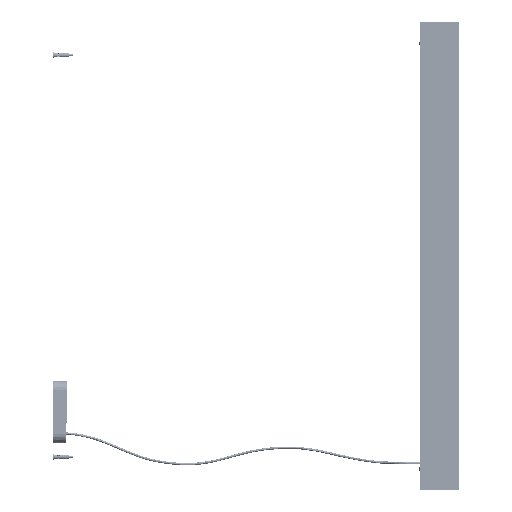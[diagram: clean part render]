
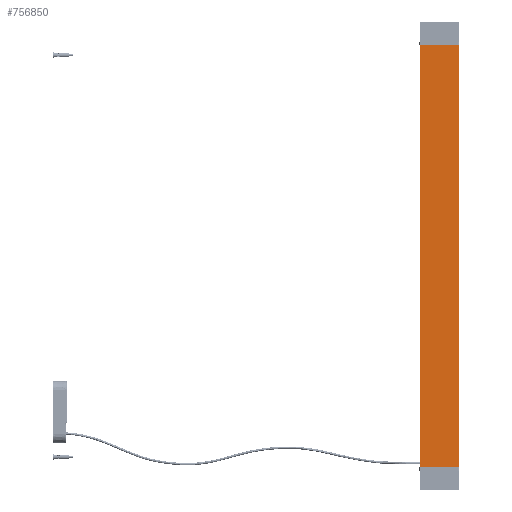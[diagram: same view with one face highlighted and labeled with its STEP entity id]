
A CAD part, left-side view. The second image highlights one B-rep face of the part: STEP entity #756850.
In plain terms, the highlighted planar face has unit normal (-1, 0, 0).
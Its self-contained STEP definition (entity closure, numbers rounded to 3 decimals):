
#13265 = VECTOR ( 'NONE', #511540, 1000. ) ;
#28666 = DIRECTION ( 'NONE',  ( -1., 0., 0. ) ) ;
#37121 = EDGE_CURVE ( 'NONE', #426493, #183097, #672593, .T. ) ;
#49217 = EDGE_CURVE ( 'NONE', #419887, #183097, #280272, .T. ) ;
#153467 = DIRECTION ( 'NONE',  ( 0., 0., -1. ) ) ;
#183097 = VERTEX_POINT ( 'NONE', #858834 ) ;
#213443 = CARTESIAN_POINT ( 'NONE',  ( -48., -50., -540. ) ) ;
#219198 = CARTESIAN_POINT ( 'NONE',  ( -48., -50., -600. ) ) ;
#224670 = CARTESIAN_POINT ( 'NONE',  ( -48., 0., 0. ) ) ;
#228530 = AXIS2_PLACEMENT_3D ( 'NONE', #224670, #28666, #153467 ) ;
#259573 = VECTOR ( 'NONE', #629073, 1000. ) ;
#280272 = LINE ( 'NONE', #213443, #13265 ) ;
#325141 = DIRECTION ( 'NONE',  ( 0., 0., -1. ) ) ;
#333917 = CARTESIAN_POINT ( 'NONE',  ( -48., 50., -600. ) ) ;
#338456 = ORIENTED_EDGE ( 'NONE', *, *, #801774, .T. ) ;
#348630 = CARTESIAN_POINT ( 'NONE',  ( -48., 50., 540. ) ) ;
#354943 = CARTESIAN_POINT ( 'NONE',  ( -48., -50., 540. ) ) ;
#361813 = VERTEX_POINT ( 'NONE', #354943 ) ;
#380998 = ORIENTED_EDGE ( 'NONE', *, *, #49217, .F. ) ;
#419887 = VERTEX_POINT ( 'NONE', #830227 ) ;
#426493 = VERTEX_POINT ( 'NONE', #348630 ) ;
#495272 = CARTESIAN_POINT ( 'NONE',  ( -48., -50., 540. ) ) ;
#497134 = VECTOR ( 'NONE', #767113, 1000. ) ;
#499690 = LINE ( 'NONE', #495272, #497134 ) ;
#500832 = FACE_OUTER_BOUND ( 'NONE', #558400, .T. ) ;
#508951 = ORIENTED_EDGE ( 'NONE', *, *, #715074, .F. ) ;
#511540 = DIRECTION ( 'NONE',  ( 0., 1., 0. ) ) ;
#528163 = ORIENTED_EDGE ( 'NONE', *, *, #37121, .T. ) ;
#558400 = EDGE_LOOP ( 'NONE', ( #508951, #528163, #380998, #338456 ) ) ;
#608584 = VECTOR ( 'NONE', #325141, 1000. ) ;
#624657 = LINE ( 'NONE', #219198, #259573 ) ;
#629073 = DIRECTION ( 'NONE',  ( 0., 0., 1. ) ) ;
#672593 = LINE ( 'NONE', #333917, #608584 ) ;
#715074 = EDGE_CURVE ( 'NONE', #426493, #361813, #499690, .T. ) ;
#756850 = ADVANCED_FACE ( 'NONE', ( #500832 ), #763857, .T. ) ;
#763857 = PLANE ( 'NONE',  #228530 ) ;
#767113 = DIRECTION ( 'NONE',  ( 0., -1., 0. ) ) ;
#801774 = EDGE_CURVE ( 'NONE', #419887, #361813, #624657, .T. ) ;
#830227 = CARTESIAN_POINT ( 'NONE',  ( -48., -50., -540. ) ) ;
#858834 = CARTESIAN_POINT ( 'NONE',  ( -48., 50., -540. ) ) ;
